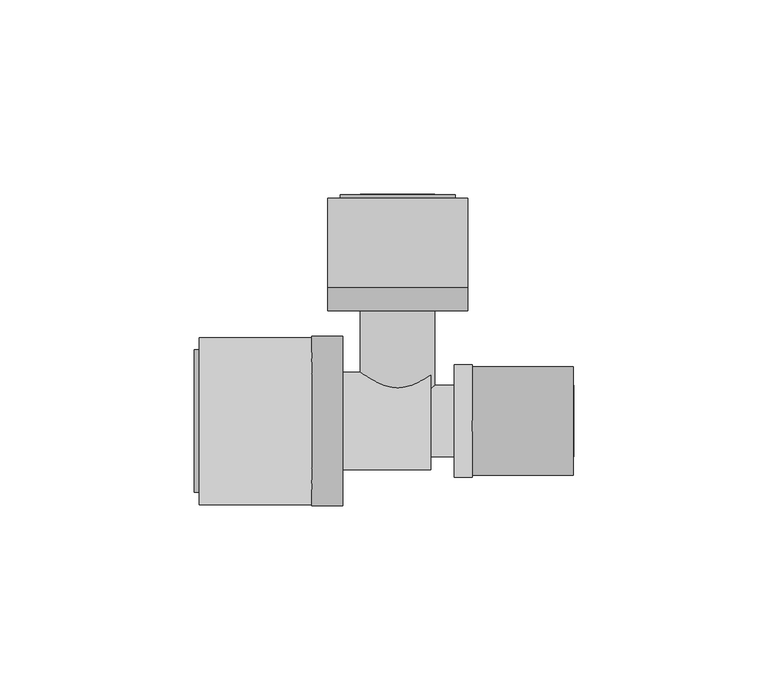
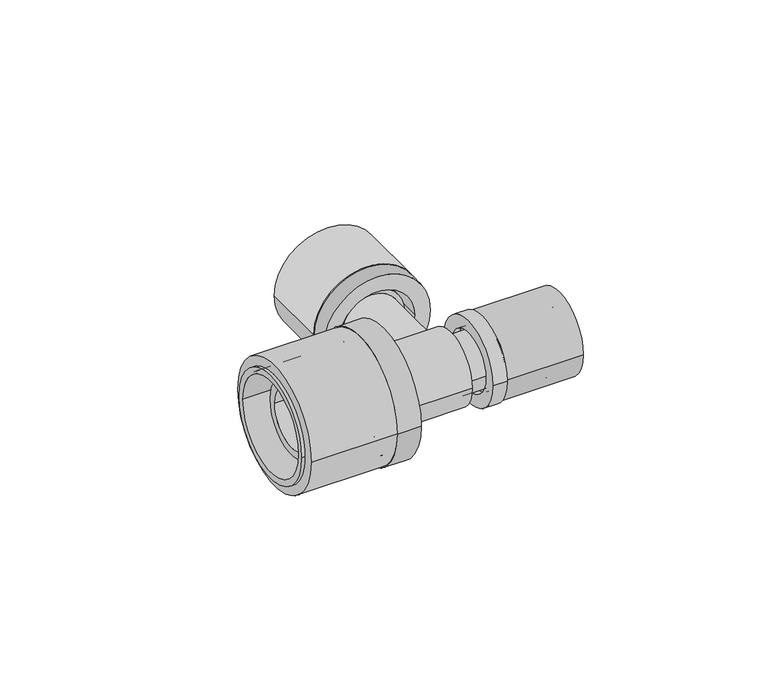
"""IFC4 building model written with IfcOpenShell, lengths in millimetres: pipe fitting geometry, FASTLOC_T-piece_LX : FSL T-Piece LX CZ."""

from ifc_helpers import new_model, si_unit, point, frame, origin, origin_2d, place, context, project, spatial, polyline, circle_curve, trimmed, segment, composite_curve, outline, extrude, source, transform, mapped, element, save
from ifc_brep_helpers import plane_surface, cylinder_surface, revolved_surface, advanced_brep


def pipe_fitting_8d489ee2(model_context):
    return source(origin(), model_context, "Body", "SolidModel", [
        extrude(outline(composite_curve([segment(trimmed(circle_curve(origin_2d(), 14.0), [point((-14.0, 0.0))], [point((14.0, 0.0))], False, "CARTESIAN"), True, "CONTINUOUS"), segment(trimmed(circle_curve(origin_2d(), 14.0), [point((14.0, 0.0))], [point((-14.0, 0.0))], False, "CARTESIAN"), True, "CONTINUOUS")], self_intersect=False), holes=[composite_curve([segment(trimmed(circle_curve(origin_2d(), 10.7), [point((-10.7, 0.0))], [point((10.7, 0.0))], True, "CARTESIAN"), True, "CONTINUOUS"), segment(trimmed(circle_curve(origin_2d(), 10.7), [point((10.7, 0.0))], [point((-10.7, 0.0))], True, "CARTESIAN"), True, "CONTINUOUS")], self_intersect=False)]), frame((19.2, 0.0, 0.0), z_axis=(1.0, 0.0, 0.0), x_axis=(0.0, 1.0, 0.0)), (0.0, 0.0, 1.0), 26.0),
        advanced_brep(
        [(19.2, 14.5, 0.0), (19.2, -14.5, 0.0), (14.5, -14.5, 0.0), (14.5, 14.5, 0.0), (36.2, 11.85, 0.0), (36.2, -11.85, 0.0), (19.2, -11.85, 0.0), (19.2, 11.85, 0.0), (14.5, 10.15, 0.0), (14.5, -10.15, 0.0), (36.2, -10.15, 0.0), (36.2, 10.15, 0.0)],
        [
            (0, 1, circle_curve(frame((19.2, 0.0, 0.0), z_axis=(-1.0, 0.0, 0.0), x_axis=(0.0, -1.0, 0.0)), 14.5)),
            (1, 2),
            (2, 3, circle_curve(frame((14.5, 0.0, 0.0), z_axis=(1.0, 0.0, 0.0), x_axis=(0.0, -1.0, 0.0)), 14.5)),
            (3, 0),
            (4, 5, circle_curve(frame((36.2, 0.0, 0.0), z_axis=(-1.0, 0.0, 0.0), x_axis=(0.0, -1.0, 0.0)), 11.85)),
            (5, 6),
            (6, 7, circle_curve(frame((19.2, 0.0, 0.0), z_axis=(1.0, 0.0, 0.0), x_axis=(0.0, -1.0, 0.0)), 11.85)),
            (7, 4),
            (8, 9, circle_curve(frame((14.5, 0.0, 0.0), z_axis=(-1.0, 0.0, 0.0), x_axis=(0.0, -1.0, 0.0)), 10.15)),
            (9, 10),
            (10, 11, circle_curve(frame((36.2, 0.0, 0.0), z_axis=(1.0, 0.0, 0.0), x_axis=(0.0, -1.0, 0.0)), 10.15)),
            (11, 8),
            (1, 0, circle_curve(frame((19.2, 0.0, 0.0), z_axis=(-1.0, 0.0, 0.0), x_axis=(0.0, 1.0, 0.0)), 14.5)),
            (3, 2, circle_curve(frame((14.5, 0.0, 0.0), z_axis=(1.0, 0.0, 0.0), x_axis=(0.0, 1.0, 0.0)), 14.5)),
            (6, 7, circle_curve(frame((19.2, 0.0, 0.0), z_axis=(-1.0, 0.0, 0.0), x_axis=(0.0, 1.0, 0.0)), 11.85)),
            (5, 4, circle_curve(frame((36.2, 0.0, 0.0), z_axis=(-1.0, 0.0, 0.0), x_axis=(0.0, 1.0, 0.0)), 11.85)),
            (10, 11, circle_curve(frame((36.2, 0.0, 0.0), z_axis=(-1.0, 0.0, 0.0), x_axis=(0.0, 1.0, 0.0)), 10.15)),
            (9, 8, circle_curve(frame((14.5, 0.0, 0.0), z_axis=(-1.0, 0.0, 0.0), x_axis=(0.0, 1.0, 0.0)), 10.15)),
        ],
        [
            cylinder_surface(frame((14.5, 0.0, 0.0), z_axis=(1.0, 0.0, 0.0), x_axis=(0.0, -1.0, 0.0)), 14.5),
            cylinder_surface(frame((14.5, 0.0, 0.0), z_axis=(1.0, 0.0, 0.0), x_axis=(0.0, -1.0, 0.0)), 11.85),
            revolved_surface(polyline([(36.2, -10.15, 0.0), (14.5, -10.15, 0.0)]), (14.5, 0.0, 0.0), (1.0, 0.0, 0.0)),
            cylinder_surface(frame((14.5, 0.0, 0.0), z_axis=(1.0, 0.0, 0.0), x_axis=(0.0, 1.0, 0.0)), 14.5),
            plane_surface(frame((19.2, 0.0, 0.0), z_axis=(1.0, 0.0, 0.0), x_axis=(0.0, 1.0, 0.0))),
            cylinder_surface(frame((14.5, 0.0, 0.0), z_axis=(1.0, 0.0, 0.0), x_axis=(0.0, 1.0, 0.0)), 11.85),
            plane_surface(frame((36.2, 0.0, 0.0), z_axis=(1.0, 0.0, 0.0), x_axis=(0.0, 1.0, 0.0))),
            revolved_surface(polyline([(36.2, 10.15, 0.0), (14.5, 10.15, 0.0)]), (14.5, 0.0, 0.0), (1.0, 0.0, 0.0)),
            plane_surface(frame((14.5, 0.0, 0.0), z_axis=(-1.0, 0.0, 0.0), x_axis=(0.0, 1.0, 0.0))),
        ],
        [
            (0, [[1, 2, 3, 4]]),
            (1, [[5, 6, 7, 8]]),
            (2, [[9, 10, 11, 12]]),
            (3, [[13, -4, 14, -2]]),
            (4, [[-13, -1], [15, -7]]),
            (5, [[16, -8, -15, -6]]),
            (6, [[-16, -5], [17, -11]]),
            (7, [[18, -12, -17, -10]]),
            (8, [[-14, -3], [-18, -9]]),
        ],
    ),
        extrude(outline(composite_curve([segment(trimmed(circle_curve(origin_2d(), 21.5), [point((21.5, 0.0))], [point((-21.5, 0.0))], False, "CARTESIAN"), True, "CONTINUOUS"), segment(trimmed(circle_curve(origin_2d(), 21.5), [point((-21.5, 0.0))], [point((21.5, 0.0))], False, "CARTESIAN"), True, "CONTINUOUS")], self_intersect=False), holes=[composite_curve([segment(trimmed(circle_curve(origin_2d(), 16.85), [point((16.85, 0.0))], [point((-16.85, 0.0))], True, "CARTESIAN"), True, "CONTINUOUS"), segment(trimmed(circle_curve(origin_2d(), 16.85), [point((-16.85, 0.0))], [point((16.85, 0.0))], True, "CARTESIAN"), True, "CONTINUOUS")], self_intersect=False)]), frame((-51.1, 0.0, 0.0), z_axis=(1.0, 0.0, 0.0), x_axis=(0.0, 1.0, 0.0)), (0.0, 0.0, 1.0), 29.0),
        advanced_brep(
        [(-22.1, -21.8, 0.0), (-22.1, 21.8, 0.0), (-14.1, 21.8, 0.0), (-14.1, -21.8, 0.0), (-52.4, -18.35, 0.0), (-52.4, 18.35, 0.0), (-22.1, 18.35, 0.0), (-22.1, -18.35, 0.0), (-14.1, -16.2, 0.0), (-14.1, 16.2, 0.0), (-52.4, 16.2, 0.0), (-52.4, -16.2, 0.0)],
        [
            (0, 1, circle_curve(frame((-22.1, 0.0, 0.0), z_axis=(1.0, 0.0, 0.0), x_axis=(0.0, 1.0, 0.0)), 21.8)),
            (1, 2),
            (2, 3, circle_curve(frame((-14.1, 0.0, 0.0), z_axis=(-1.0, 0.0, 0.0), x_axis=(0.0, 1.0, 0.0)), 21.8)),
            (3, 0),
            (4, 5, circle_curve(frame((-52.4, 0.0, 0.0), z_axis=(1.0, 0.0, 0.0), x_axis=(0.0, 1.0, 0.0)), 18.35)),
            (5, 6),
            (6, 7, circle_curve(frame((-22.1, 0.0, 0.0), z_axis=(-1.0, 0.0, 0.0), x_axis=(0.0, 1.0, 0.0)), 18.35)),
            (7, 4),
            (8, 9, circle_curve(frame((-14.1, 0.0, 0.0), z_axis=(1.0, 0.0, 0.0), x_axis=(0.0, 1.0, 0.0)), 16.2)),
            (9, 10),
            (10, 11, circle_curve(frame((-52.4, 0.0, 0.0), z_axis=(-1.0, 0.0, 0.0), x_axis=(0.0, 1.0, 0.0)), 16.2)),
            (11, 8),
            (1, 0, circle_curve(frame((-22.1, 0.0, 0.0), z_axis=(1.0, 0.0, 0.0), x_axis=(0.0, -1.0, 0.0)), 21.8)),
            (3, 2, circle_curve(frame((-14.1, 0.0, 0.0), z_axis=(-1.0, 0.0, 0.0), x_axis=(0.0, -1.0, 0.0)), 21.8)),
            (6, 7, circle_curve(frame((-22.1, 0.0, 0.0), z_axis=(1.0, 0.0, 0.0), x_axis=(0.0, -1.0, 0.0)), 18.35)),
            (5, 4, circle_curve(frame((-52.4, 0.0, 0.0), z_axis=(1.0, 0.0, 0.0), x_axis=(0.0, -1.0, 0.0)), 18.35)),
            (10, 11, circle_curve(frame((-52.4, 0.0, 0.0), z_axis=(1.0, 0.0, 0.0), x_axis=(0.0, -1.0, 0.0)), 16.2)),
            (9, 8, circle_curve(frame((-14.1, 0.0, 0.0), z_axis=(1.0, 0.0, 0.0), x_axis=(0.0, -1.0, 0.0)), 16.2)),
        ],
        [
            cylinder_surface(frame((-14.1, 0.0, 0.0), z_axis=(-1.0, 0.0, 0.0), x_axis=(0.0, 1.0, 0.0)), 21.8),
            cylinder_surface(frame((-14.1, 0.0, 0.0), z_axis=(-1.0, 0.0, 0.0), x_axis=(0.0, 1.0, 0.0)), 18.35),
            revolved_surface(polyline([(-52.4, 16.2, 0.0), (-14.1, 16.2, 0.0)]), (-14.1, 0.0, 0.0), (-1.0, 0.0, 0.0)),
            cylinder_surface(frame((-14.1, 0.0, 0.0), z_axis=(-1.0, 0.0, 0.0), x_axis=(0.0, -1.0, 0.0)), 21.8),
            plane_surface(frame((-22.1, 0.0, 0.0), z_axis=(-1.0, 0.0, 0.0), x_axis=(0.0, -1.0, 0.0))),
            cylinder_surface(frame((-14.1, 0.0, 0.0), z_axis=(-1.0, 0.0, 0.0), x_axis=(0.0, -1.0, 0.0)), 18.35),
            plane_surface(frame((-52.4, 0.0, 0.0), z_axis=(-1.0, 0.0, 0.0), x_axis=(0.0, -1.0, 0.0))),
            revolved_surface(polyline([(-52.4, -16.2, 0.0), (-14.1, -16.2, 0.0)]), (-14.1, 0.0, 0.0), (-1.0, 0.0, 0.0)),
            plane_surface(frame((-14.1, 0.0, 0.0), z_axis=(1.0, 0.0, 0.0), x_axis=(0.0, -1.0, 0.0))),
        ],
        [
            (0, [[1, 2, 3, 4]]),
            (1, [[5, 6, 7, 8]]),
            (2, [[9, 10, 11, 12]]),
            (3, [[13, -4, 14, -2]]),
            (4, [[-13, -1], [15, -7]]),
            (5, [[16, -8, -15, -6]]),
            (6, [[-16, -5], [17, -11]]),
            (7, [[18, -12, -17, -10]]),
            (8, [[-14, -3], [-18, -9]]),
        ],
    ),
        extrude(outline(composite_curve([segment(trimmed(circle_curve(origin_2d(), 18.0), [point((0.0, 18.0))], [point((0.0, -18.0))], False, "CARTESIAN"), True, "CONTINUOUS"), segment(trimmed(circle_curve(origin_2d(), 18.0), [point((0.0, -18.0))], [point((0.0, 18.0))], False, "CARTESIAN"), True, "CONTINUOUS")], self_intersect=False), holes=[composite_curve([segment(trimmed(circle_curve(origin_2d(), 13.5), [point((0.0, 13.5))], [point((0.0, -13.5))], True, "CARTESIAN"), True, "CONTINUOUS"), segment(trimmed(circle_curve(origin_2d(), 13.5), [point((0.0, -13.5))], [point((0.0, 13.5))], True, "CARTESIAN"), True, "CONTINUOUS")], self_intersect=False)]), frame((0.0, 34.4, 0.0), z_axis=(0.0, 1.0, 0.0), x_axis=(0.0, 0.0, 1.0)), (0.0, 0.0, 1.0), 23.0),
        advanced_brep(
        [(-18.0, 34.4, 0.0), (18.0, 34.4, 0.0), (18.0, 28.4, 0.0), (-18.0, 28.4, 0.0), (-14.85, 58.2, 0.0), (14.85, 58.2, 0.0), (14.85, 34.4, 0.0), (-14.85, 34.4, 0.0), (-12.65, 28.4, 0.0), (12.65, 28.4, 0.0), (12.65, 58.2, 0.0), (-12.65, 58.2, 0.0)],
        [
            (0, 1, circle_curve(frame((0.0, 34.4, 0.0), z_axis=(0.0, -1.0, 0.0), x_axis=(1.0, 0.0, 0.0)), 18.0)),
            (1, 2),
            (2, 3, circle_curve(frame((0.0, 28.4, 0.0), z_axis=(0.0, 1.0, 0.0), x_axis=(1.0, 0.0, 0.0)), 18.0)),
            (3, 0),
            (4, 5, circle_curve(frame((0.0, 58.2, 0.0), z_axis=(0.0, -1.0, 0.0), x_axis=(1.0, 0.0, 0.0)), 14.85)),
            (5, 6),
            (6, 7, circle_curve(frame((0.0, 34.4, 0.0), z_axis=(0.0, 1.0, 0.0), x_axis=(1.0, 0.0, 0.0)), 14.85)),
            (7, 4),
            (8, 9, circle_curve(frame((0.0, 28.4, 0.0), z_axis=(0.0, -1.0, 0.0), x_axis=(1.0, 0.0, 0.0)), 12.65)),
            (9, 10),
            (10, 11, circle_curve(frame((0.0, 58.2, 0.0), z_axis=(0.0, 1.0, 0.0), x_axis=(1.0, 0.0, 0.0)), 12.65)),
            (11, 8),
            (1, 0, circle_curve(frame((0.0, 34.4, 0.0), z_axis=(0.0, -1.0, 0.0), x_axis=(-1.0, 0.0, 0.0)), 18.0)),
            (3, 2, circle_curve(frame((0.0, 28.4, 0.0), z_axis=(0.0, 1.0, 0.0), x_axis=(-1.0, 0.0, 0.0)), 18.0)),
            (6, 7, circle_curve(frame((0.0, 34.4, 0.0), z_axis=(0.0, -1.0, 0.0), x_axis=(-1.0, 0.0, 0.0)), 14.85)),
            (5, 4, circle_curve(frame((0.0, 58.2, 0.0), z_axis=(0.0, -1.0, 0.0), x_axis=(-1.0, 0.0, 0.0)), 14.85)),
            (10, 11, circle_curve(frame((0.0, 58.2, 0.0), z_axis=(0.0, -1.0, 0.0), x_axis=(-1.0, 0.0, 0.0)), 12.65)),
            (9, 8, circle_curve(frame((0.0, 28.4, 0.0), z_axis=(0.0, -1.0, 0.0), x_axis=(-1.0, 0.0, 0.0)), 12.65)),
        ],
        [
            cylinder_surface(frame((0.0, 28.4, 0.0), z_axis=(0.0, 1.0, 0.0), x_axis=(1.0, 0.0, 0.0)), 18.0),
            cylinder_surface(frame((0.0, 28.4, 0.0), z_axis=(0.0, 1.0, 0.0), x_axis=(1.0, 0.0, 0.0)), 14.85),
            revolved_surface(polyline([(12.65, 58.2, 0.0), (12.65, 28.4, 0.0)]), (0.0, 28.4, 0.0), (0.0, 1.0, 0.0)),
            cylinder_surface(frame((0.0, 28.4, 0.0), z_axis=(0.0, 1.0, 0.0), x_axis=(-1.0, 0.0, 0.0)), 18.0),
            plane_surface(frame((0.0, 34.4, 0.0), z_axis=(0.0, 1.0, 0.0), x_axis=(-1.0, 0.0, 0.0))),
            cylinder_surface(frame((0.0, 28.4, 0.0), z_axis=(0.0, 1.0, 0.0), x_axis=(-1.0, 0.0, 0.0)), 14.85),
            plane_surface(frame((0.0, 58.2, 0.0), z_axis=(0.0, 1.0, 0.0), x_axis=(-1.0, 0.0, 0.0))),
            revolved_surface(polyline([(-12.65, 58.2, 0.0), (-12.65, 28.4, 0.0)]), (0.0, 28.4, 0.0), (0.0, 1.0, 0.0)),
            plane_surface(frame((0.0, 28.4, 0.0), z_axis=(0.0, -1.0, 0.0), x_axis=(-1.0, 0.0, 0.0))),
        ],
        [
            (0, [[1, 2, 3, 4]]),
            (1, [[5, 6, 7, 8]]),
            (2, [[9, 10, 11, 12]]),
            (3, [[13, -4, 14, -2]]),
            (4, [[-13, -1], [15, -7]]),
            (5, [[16, -8, -15, -6]]),
            (6, [[-16, -5], [17, -11]]),
            (7, [[18, -12, -17, -10]]),
            (8, [[-14, -3], [-18, -9]]),
        ],
    ),
        advanced_brep(
        [(16.53, 9.2, 0.0), (16.53, -9.2, 0.0), (8.5, -9.2, 0.0), (8.5, 9.2, 0.0), (19.2, 10.25, 0.0), (19.2, -10.25, 0.0), (16.53, -10.25, 0.0), (16.53, 10.25, 0.0), (45.35, 9.2, 0.0), (45.35, -9.2, 0.0), (19.2, -9.2, 0.0), (19.2, 9.2, 0.0), (6.5, 7.2, 0.0), (6.5, -7.2, 0.0), (45.35, -7.2, 0.0), (45.35, 7.2, 0.0), (-45.35, 9.85, 0.0), (-45.35, -9.85, 0.0), (6.5, -9.85, 0.0), (6.5, 9.85, 0.0), (-22.1, 12.5, 0.0), (-22.1, -12.5, 0.0), (-45.35, -12.5, 0.0), (-45.35, 12.5, 0.0), (-19.1, 14.1, 0.0), (-19.1, -14.1, 0.0), (-22.1, -14.1, 0.0), (-22.1, 14.1, 0.0), (8.5, 12.5, 0.0), (8.5, -12.5, 0.0), (-19.1, -12.5, 0.0), (-19.1, 12.5, 0.0)],
        [
            (0, 1, circle_curve(frame((16.53, 0.0, 0.0), z_axis=(-1.0, 0.0, 0.0), x_axis=(0.0, -1.0, 0.0)), 9.2)),
            (1, 2),
            (2, 3, circle_curve(frame((8.5, 0.0, 0.0), z_axis=(1.0, 0.0, 0.0), x_axis=(0.0, -1.0, 0.0)), 9.2)),
            (3, 0),
            (4, 5, circle_curve(frame((19.2, 0.0, 0.0), z_axis=(-1.0, 0.0, 0.0), x_axis=(0.0, -1.0, 0.0)), 10.25)),
            (5, 6),
            (6, 7, circle_curve(frame((16.53, 0.0, 0.0), z_axis=(1.0, 0.0, 0.0), x_axis=(0.0, -1.0, 0.0)), 10.25)),
            (7, 4),
            (8, 9, circle_curve(frame((45.35, 0.0, 0.0), z_axis=(-1.0, 0.0, 0.0), x_axis=(0.0, -1.0, 0.0)), 9.2)),
            (9, 10),
            (10, 11, circle_curve(frame((19.2, 0.0, 0.0), z_axis=(1.0, 0.0, 0.0), x_axis=(0.0, -1.0, 0.0)), 9.2)),
            (11, 8),
            (12, 13, circle_curve(frame((6.5, 0.0, 0.0), z_axis=(-1.0, 0.0, 0.0), x_axis=(0.0, -1.0, 0.0)), 7.2)),
            (13, 14),
            (14, 15, circle_curve(frame((45.35, 0.0, 0.0), z_axis=(1.0, 0.0, 0.0), x_axis=(0.0, -1.0, 0.0)), 7.2)),
            (15, 12),
            (16, 17, circle_curve(frame((-45.35, 0.0, 0.0), z_axis=(-1.0, 0.0, 0.0), x_axis=(0.0, -1.0, 0.0)), 9.85)),
            (17, 18),
            (18, 19, circle_curve(frame((6.5, 0.0, 0.0), z_axis=(1.0, 0.0, 0.0), x_axis=(0.0, -1.0, 0.0)), 9.85)),
            (19, 16),
            (20, 21, circle_curve(frame((-22.1, 0.0, 0.0), z_axis=(-1.0, 0.0, 0.0), x_axis=(0.0, -1.0, 0.0)), 12.5)),
            (21, 22),
            (22, 23, circle_curve(frame((-45.35, 0.0, 0.0), z_axis=(1.0, 0.0, 0.0), x_axis=(0.0, -1.0, 0.0)), 12.5)),
            (23, 20),
            (24, 25, circle_curve(frame((-19.1, 0.0, 0.0), z_axis=(-1.0, 0.0, 0.0), x_axis=(0.0, -1.0, 0.0)), 14.1)),
            (25, 26),
            (26, 27, circle_curve(frame((-22.1, 0.0, 0.0), z_axis=(1.0, 0.0, 0.0), x_axis=(0.0, -1.0, 0.0)), 14.1)),
            (27, 24),
            (28, 29, circle_curve(frame((8.5, 0.0, 0.0), z_axis=(-1.0, 0.0, 0.0), x_axis=(0.0, -1.0, 0.0)), 12.5)),
            (29, 30),
            (30, 31, circle_curve(frame((-19.1, 0.0, 0.0), z_axis=(1.0, 0.0, 0.0), x_axis=(0.0, -1.0, 0.0)), 12.5)),
            (31, 28),
            (28, 29, circle_curve(frame((8.5, 0.0, 0.0), z_axis=(1.0, 0.0, 0.0), x_axis=(0.0, 1.0, 0.0)), 12.5)),
            (2, 3, circle_curve(frame((8.5, 0.0, 0.0), z_axis=(-1.0, 0.0, 0.0), x_axis=(0.0, 1.0, 0.0)), 9.2)),
            (1, 0, circle_curve(frame((16.53, 0.0, 0.0), z_axis=(-1.0, 0.0, 0.0), x_axis=(0.0, 1.0, 0.0)), 9.2)),
            (6, 7, circle_curve(frame((16.53, 0.0, 0.0), z_axis=(-1.0, 0.0, 0.0), x_axis=(0.0, 1.0, 0.0)), 10.25)),
            (5, 4, circle_curve(frame((19.2, 0.0, 0.0), z_axis=(-1.0, 0.0, 0.0), x_axis=(0.0, 1.0, 0.0)), 10.25)),
            (10, 11, circle_curve(frame((19.2, 0.0, 0.0), z_axis=(-1.0, 0.0, 0.0), x_axis=(0.0, 1.0, 0.0)), 9.2)),
            (9, 8, circle_curve(frame((45.35, 0.0, 0.0), z_axis=(-1.0, 0.0, 0.0), x_axis=(0.0, 1.0, 0.0)), 9.2)),
            (14, 15, circle_curve(frame((45.35, 0.0, 0.0), z_axis=(-1.0, 0.0, 0.0), x_axis=(0.0, 1.0, 0.0)), 7.2)),
            (13, 12, circle_curve(frame((6.5, 0.0, 0.0), z_axis=(-1.0, 0.0, 0.0), x_axis=(0.0, 1.0, 0.0)), 7.2)),
            (18, 19, circle_curve(frame((6.5, 0.0, 0.0), z_axis=(-1.0, 0.0, 0.0), x_axis=(0.0, 1.0, 0.0)), 9.85)),
            (17, 16, circle_curve(frame((-45.35, 0.0, 0.0), z_axis=(-1.0, 0.0, 0.0), x_axis=(0.0, 1.0, 0.0)), 9.85)),
            (22, 23, circle_curve(frame((-45.35, 0.0, 0.0), z_axis=(-1.0, 0.0, 0.0), x_axis=(0.0, 1.0, 0.0)), 12.5)),
            (21, 20, circle_curve(frame((-22.1, 0.0, 0.0), z_axis=(-1.0, 0.0, 0.0), x_axis=(0.0, 1.0, 0.0)), 12.5)),
            (26, 27, circle_curve(frame((-22.1, 0.0, 0.0), z_axis=(-1.0, 0.0, 0.0), x_axis=(0.0, 1.0, 0.0)), 14.1)),
            (25, 24, circle_curve(frame((-19.1, 0.0, 0.0), z_axis=(-1.0, 0.0, 0.0), x_axis=(0.0, 1.0, 0.0)), 14.1)),
            (30, 31, circle_curve(frame((-19.1, 0.0, 0.0), z_axis=(-1.0, 0.0, 0.0), x_axis=(0.0, 1.0, 0.0)), 12.5)),
        ],
        [
            cylinder_surface(frame((0.0, 0.0, 0.0), z_axis=(1.0, 0.0, 0.0), x_axis=(0.0, -1.0, 0.0)), 9.2),
            cylinder_surface(frame((0.0, 0.0, 0.0), z_axis=(1.0, 0.0, 0.0), x_axis=(0.0, -1.0, 0.0)), 10.25),
            revolved_surface(polyline([(45.35, -7.2, 0.0), (6.5, -7.2, 0.0)]), (0.0, 0.0, 0.0), (1.0, 0.0, 0.0)),
            revolved_surface(polyline([(6.5, -9.85, 0.0), (-45.35, -9.85, 0.0)]), (0.0, 0.0, 0.0), (1.0, 0.0, 0.0)),
            cylinder_surface(frame((0.0, 0.0, 0.0), z_axis=(1.0, 0.0, 0.0), x_axis=(0.0, -1.0, 0.0)), 12.5),
            cylinder_surface(frame((0.0, 0.0, 0.0), z_axis=(1.0, 0.0, 0.0), x_axis=(0.0, -1.0, 0.0)), 14.1),
            plane_surface(frame((8.5, 0.0, 0.0), z_axis=(1.0, 0.0, 0.0), x_axis=(0.0, 1.0, 0.0))),
            cylinder_surface(frame((0.0, 0.0, 0.0), z_axis=(1.0, 0.0, 0.0), x_axis=(0.0, 1.0, 0.0)), 9.2),
            plane_surface(frame((16.53, 0.0, 0.0), z_axis=(-1.0, 0.0, 0.0), x_axis=(0.0, 1.0, 0.0))),
            cylinder_surface(frame((0.0, 0.0, 0.0), z_axis=(1.0, 0.0, 0.0), x_axis=(0.0, 1.0, 0.0)), 10.25),
            plane_surface(frame((19.2, 0.0, 0.0), z_axis=(1.0, 0.0, 0.0), x_axis=(0.0, 1.0, 0.0))),
            plane_surface(frame((45.35, 0.0, 0.0), z_axis=(1.0, 0.0, 0.0), x_axis=(0.0, 1.0, 0.0))),
            revolved_surface(polyline([(45.35, 7.2, 0.0), (6.5, 7.2, 0.0)]), (0.0, 0.0, 0.0), (1.0, 0.0, 0.0)),
            plane_surface(frame((6.5, 0.0, 0.0), z_axis=(-1.0, 0.0, 0.0), x_axis=(0.0, 1.0, 0.0))),
            revolved_surface(polyline([(6.5, 9.85, 0.0), (-45.35, 9.85, 0.0)]), (0.0, 0.0, 0.0), (1.0, 0.0, 0.0)),
            plane_surface(frame((-45.35, 0.0, 0.0), z_axis=(-1.0, 0.0, 0.0), x_axis=(0.0, 1.0, 0.0))),
            cylinder_surface(frame((0.0, 0.0, 0.0), z_axis=(1.0, 0.0, 0.0), x_axis=(0.0, 1.0, 0.0)), 12.5),
            plane_surface(frame((-22.1, 0.0, 0.0), z_axis=(-1.0, 0.0, 0.0), x_axis=(0.0, 1.0, 0.0))),
            cylinder_surface(frame((0.0, 0.0, 0.0), z_axis=(1.0, 0.0, 0.0), x_axis=(0.0, 1.0, 0.0)), 14.1),
            plane_surface(frame((-19.1, 0.0, 0.0), z_axis=(1.0, 0.0, 0.0), x_axis=(0.0, 1.0, 0.0))),
        ],
        [
            (0, [[1, 2, 3, 4]]),
            (1, [[5, 6, 7, 8]]),
            (0, [[9, 10, 11, 12]]),
            (2, [[13, 14, 15, 16]]),
            (3, [[17, 18, 19, 20]]),
            (4, [[21, 22, 23, 24]]),
            (5, [[25, 26, 27, 28]]),
            (4, [[29, 30, 31, 32]]),
            (6, [[33, -29], [34, -3]]),
            (7, [[35, -4, -34, -2]]),
            (8, [[36, -7], [-35, -1]]),
            (9, [[37, -8, -36, -6]]),
            (10, [[-37, -5], [38, -11]]),
            (7, [[39, -12, -38, -10]]),
            (11, [[-39, -9], [40, -15]]),
            (12, [[41, -16, -40, -14]]),
            (13, [[42, -19], [-41, -13]]),
            (14, [[43, -20, -42, -18]]),
            (15, [[44, -23], [-43, -17]]),
            (16, [[45, -24, -44, -22]]),
            (17, [[46, -27], [-45, -21]]),
            (18, [[47, -28, -46, -26]]),
            (19, [[-47, -25], [48, -31]]),
            (16, [[-33, -32, -48, -30]]),
        ],
    ),
        advanced_brep(
        [(7.35, 58.4, 0.0), (-7.35, 58.4, 0.0), (-7.35, 0.0, 0.0), (7.35, 0.0, 0.0), (9.6, 0.0, 0.0), (-9.6, 0.0, 0.0), (-9.6, 31.6, 0.0), (9.6, 31.6, 0.0), (11.1, 31.6, 0.0), (-11.1, 31.6, 0.0), (-11.1, 34.4, 0.0), (11.1, 34.4, 0.0), (9.6, 34.4, 0.0), (-9.6, 34.4, 0.0), (-9.6, 58.4, 0.0), (9.6, 58.4, 0.0)],
        [
            (0, 1, circle_curve(frame((0.0, 58.4, 0.0), z_axis=(0.0, 1.0, 0.0), x_axis=(-1.0, 0.0, 0.0)), 7.35)),
            (1, 2),
            (2, 3, circle_curve(frame((0.0, 0.0, 0.0), z_axis=(0.0, -1.0, 0.0), x_axis=(-1.0, 0.0, 0.0)), 7.35)),
            (3, 0),
            (4, 5, circle_curve(frame((0.0, 0.0, 0.0), z_axis=(0.0, 1.0, 0.0), x_axis=(-1.0, 0.0, 0.0)), 9.6)),
            (5, 6),
            (6, 7, circle_curve(frame((0.0, 31.6, 0.0), z_axis=(0.0, -1.0, 0.0), x_axis=(-1.0, 0.0, 0.0)), 9.6)),
            (7, 4),
            (8, 9, circle_curve(frame((0.0, 31.6, 0.0), z_axis=(0.0, 1.0, 0.0), x_axis=(-1.0, 0.0, 0.0)), 11.1)),
            (9, 10),
            (10, 11, circle_curve(frame((0.0, 34.4, 0.0), z_axis=(0.0, -1.0, 0.0), x_axis=(-1.0, 0.0, 0.0)), 11.1)),
            (11, 8),
            (12, 13, circle_curve(frame((0.0, 34.4, 0.0), z_axis=(0.0, 1.0, 0.0), x_axis=(-1.0, 0.0, 0.0)), 9.6)),
            (13, 14),
            (14, 15, circle_curve(frame((0.0, 58.4, 0.0), z_axis=(0.0, -1.0, 0.0), x_axis=(-1.0, 0.0, 0.0)), 9.6)),
            (15, 12),
            (1, 0, circle_curve(frame((0.0, 58.4, 0.0), z_axis=(0.0, 1.0, 0.0), x_axis=(1.0, 0.0, 0.0)), 7.35)),
            (3, 2, circle_curve(frame((0.0, 0.0, 0.0), z_axis=(0.0, -1.0, 0.0), x_axis=(1.0, 0.0, 0.0)), 7.35)),
            (4, 5, circle_curve(frame((0.0, 0.0, 0.0), z_axis=(0.0, -1.0, 0.0), x_axis=(1.0, 0.0, 0.0)), 9.6)),
            (7, 6, circle_curve(frame((0.0, 31.6, 0.0), z_axis=(0.0, -1.0, 0.0), x_axis=(1.0, 0.0, 0.0)), 9.6)),
            (8, 9, circle_curve(frame((0.0, 31.6, 0.0), z_axis=(0.0, -1.0, 0.0), x_axis=(1.0, 0.0, 0.0)), 11.1)),
            (11, 10, circle_curve(frame((0.0, 34.4, 0.0), z_axis=(0.0, -1.0, 0.0), x_axis=(1.0, 0.0, 0.0)), 11.1)),
            (12, 13, circle_curve(frame((0.0, 34.4, 0.0), z_axis=(0.0, -1.0, 0.0), x_axis=(1.0, 0.0, 0.0)), 9.6)),
            (15, 14, circle_curve(frame((0.0, 58.4, 0.0), z_axis=(0.0, -1.0, 0.0), x_axis=(1.0, 0.0, 0.0)), 9.6)),
        ],
        [
            revolved_surface(polyline([(-7.35, 0.0, 0.0), (-7.35, 58.4, 0.0)]), (0.0, 0.0, 0.0), (0.0, -1.0, 0.0)),
            cylinder_surface(frame((0.0, 0.0, 0.0), z_axis=(0.0, -1.0, 0.0), x_axis=(-1.0, 0.0, 0.0)), 9.6),
            cylinder_surface(frame((0.0, 0.0, 0.0), z_axis=(0.0, -1.0, 0.0), x_axis=(-1.0, 0.0, 0.0)), 11.1),
            revolved_surface(polyline([(7.35, 0.0, 0.0), (7.35, 58.4, 0.0)]), (0.0, 0.0, 0.0), (0.0, -1.0, 0.0)),
            plane_surface(frame((0.0, 0.0, 0.0), z_axis=(0.0, -1.0, 0.0), x_axis=(1.0, 0.0, 0.0))),
            cylinder_surface(frame((0.0, 0.0, 0.0), z_axis=(0.0, -1.0, 0.0), x_axis=(1.0, 0.0, 0.0)), 9.6),
            plane_surface(frame((0.0, 31.6, 0.0), z_axis=(0.0, -1.0, 0.0), x_axis=(1.0, 0.0, 0.0))),
            cylinder_surface(frame((0.0, 0.0, 0.0), z_axis=(0.0, -1.0, 0.0), x_axis=(1.0, 0.0, 0.0)), 11.1),
            plane_surface(frame((0.0, 34.4, 0.0), z_axis=(0.0, 1.0, 0.0), x_axis=(1.0, 0.0, 0.0))),
            plane_surface(frame((0.0, 58.4, 0.0), z_axis=(0.0, 1.0, 0.0), x_axis=(1.0, 0.0, 0.0))),
        ],
        [
            (0, [[1, 2, 3, 4]]),
            (1, [[5, 6, 7, 8]]),
            (2, [[9, 10, 11, 12]]),
            (1, [[13, 14, 15, 16]]),
            (3, [[17, -4, 18, -2]]),
            (4, [[19, -5], [-18, -3]]),
            (5, [[-19, -8, 20, -6]]),
            (6, [[21, -9], [-20, -7]]),
            (7, [[-21, -12, 22, -10]]),
            (8, [[-22, -11], [23, -13]]),
            (5, [[-23, -16, 24, -14]]),
            (9, [[-24, -15], [-17, -1]]),
        ],
    ),
    ])


if __name__ == "__main__":
    model = new_model("IFC4")
    model_context = context("Model", 3, world=origin())
    ifc_project = project(units=[si_unit("LENGTHUNIT", "METRE", prefix="MILLI")], contexts=[model_context])
    site = spatial("IfcSite", under=ifc_project)
    building = spatial("IfcBuilding", under=site)
    placement = place(None, origin())
    pipe_fitting_shape = pipe_fitting_8d489ee2(model_context)
    element("IfcPipeFitting", 1, ObjectType="FASTLOC_T-piece_LX : FSL T-Piece LX CZ", at=placement, inside=building, context=model_context, shape_type="MappedRepresentation", body=[
        mapped(pipe_fitting_shape, transform((0.0, 0.0, 0.0), x_axis=(1.0, 0.0, 0.0), y_axis=(0.0, 1.0, 0.0), z_axis=(0.0, 0.0, 1.0))),
    ])
    save(model, "model.ifc")
